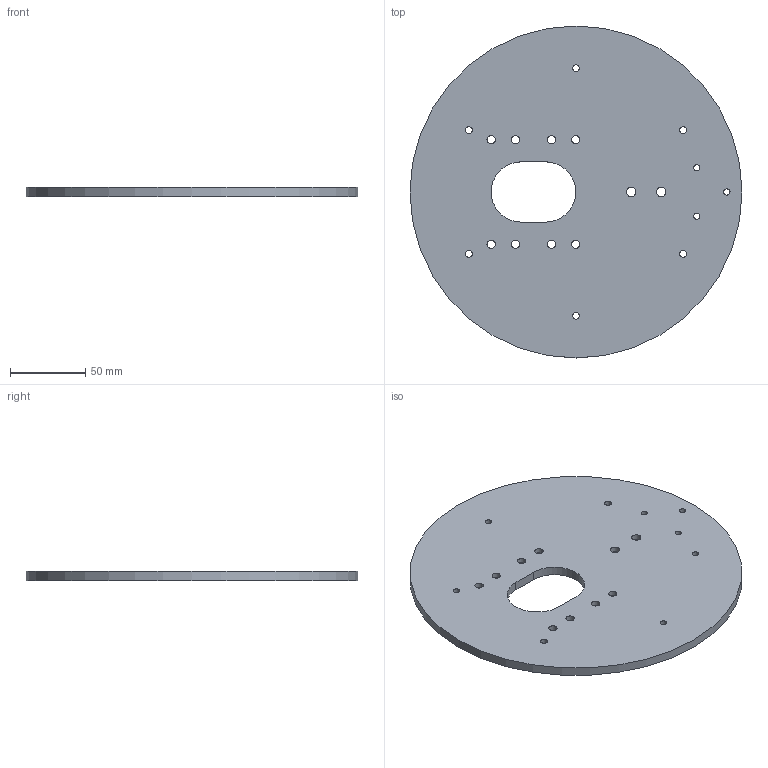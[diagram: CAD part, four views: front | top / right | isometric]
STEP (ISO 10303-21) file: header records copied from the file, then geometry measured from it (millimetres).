
FILE_DESCRIPTION( ( 'Unknown' ), '1' );
FILE_NAME( 'F:/navkite transat/construction/2016/3D ET ASSEMBLAGES/self tailing/WI 04.stp', 'Unknown', ( 'GMA' ), ( 'Unknown' ), 'XStep 1.0', 'Unknown', ' ' );
FILE_SCHEMA( ( 'automotive_design' ) );
Length unit declared in the file: millimetre
Products named in the file (1): 1
Bounding box: 220 x 220 x 6 mm (x, y, z)
Volume: 213558.7 mm3; surface area: 78127.1 mm2
Topology: 1 solids, 1 shells, 42 faces, 123 edges, 83 vertices
Faces by surface type: cylinder 22, cone 16, plane 4
Full cylindrical faces by diameter (mm): 4.134 x3, 4.5 x6, 5.5 x8, 6.2 x2, 220 x1
Entity records: 1512 total; most frequent: DIRECTION 214, CARTESIAN_POINT 175, ORIENTED_EDGE 136, EDGE_LOOP 118, AXIS2_PLACEMENT_3D 103, EDGE_CURVE 68, VERTEX_POINT 64, FACE_OUTER_BOUND 62
